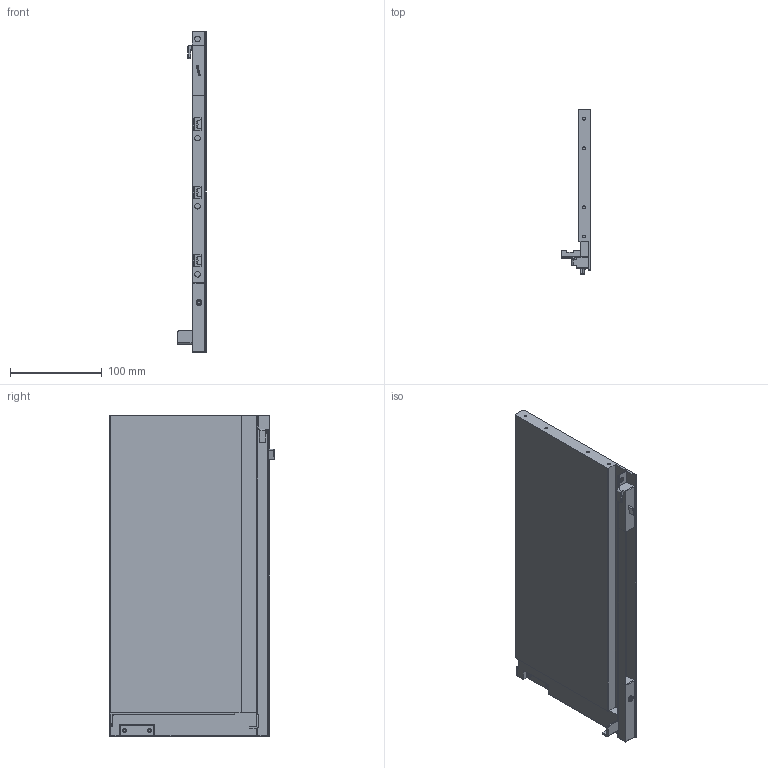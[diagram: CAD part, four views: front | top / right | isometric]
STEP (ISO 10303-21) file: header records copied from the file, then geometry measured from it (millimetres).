
FILE_DESCRIPTION (( 'STEP AP203' ), '1' );
FILE_NAME ('HT133501-R.STEP', '2020-09-14T00:55:56', ( 'Users' ), ( 'Microsoft' ), 'SwSTEP 2.0', 'SolidWorks 2018', '' );
FILE_SCHEMA (( 'CONFIG_CONTROL_DESIGN' ));
Length unit declared in the file: millimetre
Products named in the file (1): HT133501-R
Bounding box: 31.3 x 179 x 349 mm (x, y, z)
Volume: 688427.1 mm3; surface area: 153669.9 mm2
Topology: 1 solids, 8 shells, 408 faces, 1031 edges, 641 vertices
Faces by surface type: plane 201, cylinder 143, torus 29, bspline 23, cone 6, sphere 6
Entity records: 12712 total; most frequent: CARTESIAN_POINT 2976, ORIENTED_EDGE 2044, DIRECTION 1979, EDGE_CURVE 1022, AXIS2_PLACEMENT_3D 674, VERTEX_POINT 641, LINE 631, VECTOR 631
